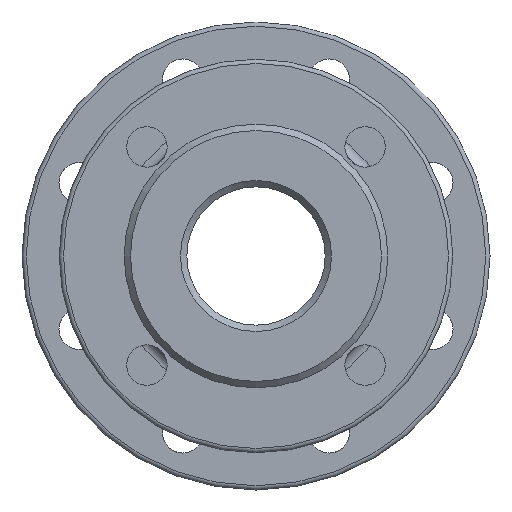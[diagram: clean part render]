
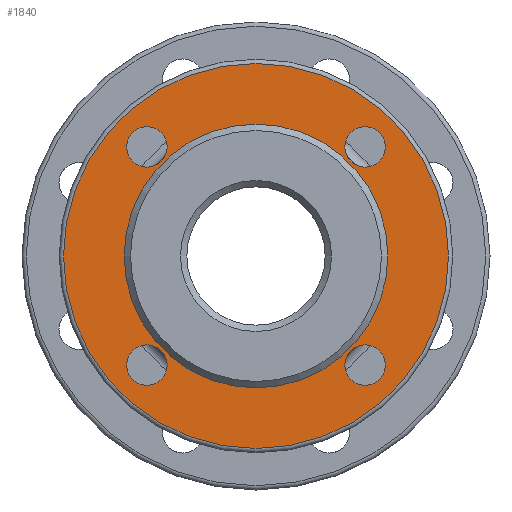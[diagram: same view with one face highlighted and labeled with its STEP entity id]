
A CAD part, left-side view. The second image highlights one B-rep face of the part: STEP entity #1840.
In plain terms, the highlighted planar face has unit normal (-1, 0, 0).
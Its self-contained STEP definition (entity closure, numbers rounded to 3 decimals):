
#31 = EDGE_CURVE ( 'NONE', #804, #804, #2294, .T. ) ;
#38 = VERTEX_POINT ( 'NONE', #865 ) ;
#99 = DIRECTION ( 'NONE',  ( -1., 0., 0. ) ) ;
#113 = CARTESIAN_POINT ( 'NONE',  ( 3., -51.265, 51.265 ) ) ;
#137 = EDGE_CURVE ( 'NONE', #1173, #1173, #940, .T. ) ;
#152 = CARTESIAN_POINT ( 'NONE',  ( 3., 62., 0. ) ) ;
#251 = CARTESIAN_POINT ( 'NONE',  ( 3., 0., 62. ) ) ;
#310 = EDGE_LOOP ( 'NONE', ( #2169 ) ) ;
#329 = DIRECTION ( 'NONE',  ( 1., 0., 0. ) ) ;
#338 = ORIENTED_EDGE ( 'NONE', *, *, #783, .F. ) ;
#355 = CARTESIAN_POINT ( 'NONE',  ( 3., 0., 0. ) ) ;
#370 = FACE_BOUND ( 'NONE', #310, .T. ) ;
#378 = AXIS2_PLACEMENT_3D ( 'NONE', #152, #329, #1605 ) ;
#450 = VERTEX_POINT ( 'NONE', #2082 ) ;
#474 = EDGE_LOOP ( 'NONE', ( #338 ) ) ;
#535 = DIRECTION ( 'NONE',  ( -1., 0., 0. ) ) ;
#562 = CIRCLE ( 'NONE', #2049, 90.5 ) ;
#567 = FACE_BOUND ( 'NONE', #955, .T. ) ;
#576 = PLANE ( 'NONE',  #378 ) ;
#656 = DIRECTION ( 'NONE',  ( -1., 0., 0. ) ) ;
#661 = DIRECTION ( 'NONE',  ( -1., 0., 0. ) ) ;
#722 = AXIS2_PLACEMENT_3D ( 'NONE', #113, #661, #877 ) ;
#728 = CIRCLE ( 'NONE', #1754, 9.5 ) ;
#783 = EDGE_CURVE ( 'NONE', #38, #38, #1023, .T. ) ;
#788 = DIRECTION ( 'NONE',  ( 0., 0., -1. ) ) ;
#790 = FACE_BOUND ( 'NONE', #2410, .T. ) ;
#795 = DIRECTION ( 'NONE',  ( -1., 0., 0. ) ) ;
#804 = VERTEX_POINT ( 'NONE', #1619 ) ;
#865 = CARTESIAN_POINT ( 'NONE',  ( 3., -51.265, -60.765 ) ) ;
#867 = DIRECTION ( 'NONE',  ( 0., 1., 0. ) ) ;
#877 = DIRECTION ( 'NONE',  ( 0., -1., 0. ) ) ;
#940 = CIRCLE ( 'NONE', #722, 9.5 ) ;
#955 = EDGE_LOOP ( 'NONE', ( #1129 ) ) ;
#997 = EDGE_CURVE ( 'NONE', #450, #450, #562, .T. ) ;
#1023 = CIRCLE ( 'NONE', #2481, 9.5 ) ;
#1030 = CARTESIAN_POINT ( 'NONE',  ( 3., 60.765, -51.265 ) ) ;
#1042 = VERTEX_POINT ( 'NONE', #251 ) ;
#1075 = EDGE_CURVE ( 'NONE', #2262, #2262, #728, .T. ) ;
#1129 = ORIENTED_EDGE ( 'NONE', *, *, #1075, .F. ) ;
#1173 = VERTEX_POINT ( 'NONE', #2239 ) ;
#1237 = CARTESIAN_POINT ( 'NONE',  ( 3., -51.265, -51.265 ) ) ;
#1355 = FACE_OUTER_BOUND ( 'NONE', #1363, .T. ) ;
#1363 = EDGE_LOOP ( 'NONE', ( #2385 ) ) ;
#1408 = CIRCLE ( 'NONE', #2436, 62. ) ;
#1473 = CARTESIAN_POINT ( 'NONE',  ( 3., 51.265, -51.265 ) ) ;
#1493 = DIRECTION ( 'NONE',  ( 0., 0., -1. ) ) ;
#1495 = ORIENTED_EDGE ( 'NONE', *, *, #1765, .F. ) ;
#1594 = FACE_BOUND ( 'NONE', #474, .T. ) ;
#1605 = DIRECTION ( 'NONE',  ( 0., 0., -1. ) ) ;
#1619 = CARTESIAN_POINT ( 'NONE',  ( 3., 51.265, 60.765 ) ) ;
#1695 = AXIS2_PLACEMENT_3D ( 'NONE', #1935, #99, #1738 ) ;
#1713 = EDGE_LOOP ( 'NONE', ( #2361 ) ) ;
#1738 = DIRECTION ( 'NONE',  ( 0., 0., 1. ) ) ;
#1754 = AXIS2_PLACEMENT_3D ( 'NONE', #1473, #2086, #867 ) ;
#1765 = EDGE_CURVE ( 'NONE', #1042, #1042, #1408, .T. ) ;
#1781 = FACE_BOUND ( 'NONE', #1713, .T. ) ;
#1795 = DIRECTION ( 'NONE',  ( 0., 0., 1. ) ) ;
#1840 = ADVANCED_FACE ( 'NONE', ( #1355, #370, #1594, #567, #1781, #790 ), #576, .F. ) ;
#1935 = CARTESIAN_POINT ( 'NONE',  ( 3., 51.265, 51.265 ) ) ;
#2049 = AXIS2_PLACEMENT_3D ( 'NONE', #355, #795, #788 ) ;
#2082 = CARTESIAN_POINT ( 'NONE',  ( 3., 0., -90.5 ) ) ;
#2086 = DIRECTION ( 'NONE',  ( -1., 0., 0. ) ) ;
#2169 = ORIENTED_EDGE ( 'NONE', *, *, #137, .F. ) ;
#2201 = CARTESIAN_POINT ( 'NONE',  ( 3., 0., 0. ) ) ;
#2239 = CARTESIAN_POINT ( 'NONE',  ( 3., -60.765, 51.265 ) ) ;
#2262 = VERTEX_POINT ( 'NONE', #1030 ) ;
#2294 = CIRCLE ( 'NONE', #1695, 9.5 ) ;
#2361 = ORIENTED_EDGE ( 'NONE', *, *, #31, .F. ) ;
#2385 = ORIENTED_EDGE ( 'NONE', *, *, #997, .T. ) ;
#2410 = EDGE_LOOP ( 'NONE', ( #1495 ) ) ;
#2436 = AXIS2_PLACEMENT_3D ( 'NONE', #2201, #535, #1795 ) ;
#2481 = AXIS2_PLACEMENT_3D ( 'NONE', #1237, #656, #1493 ) ;
